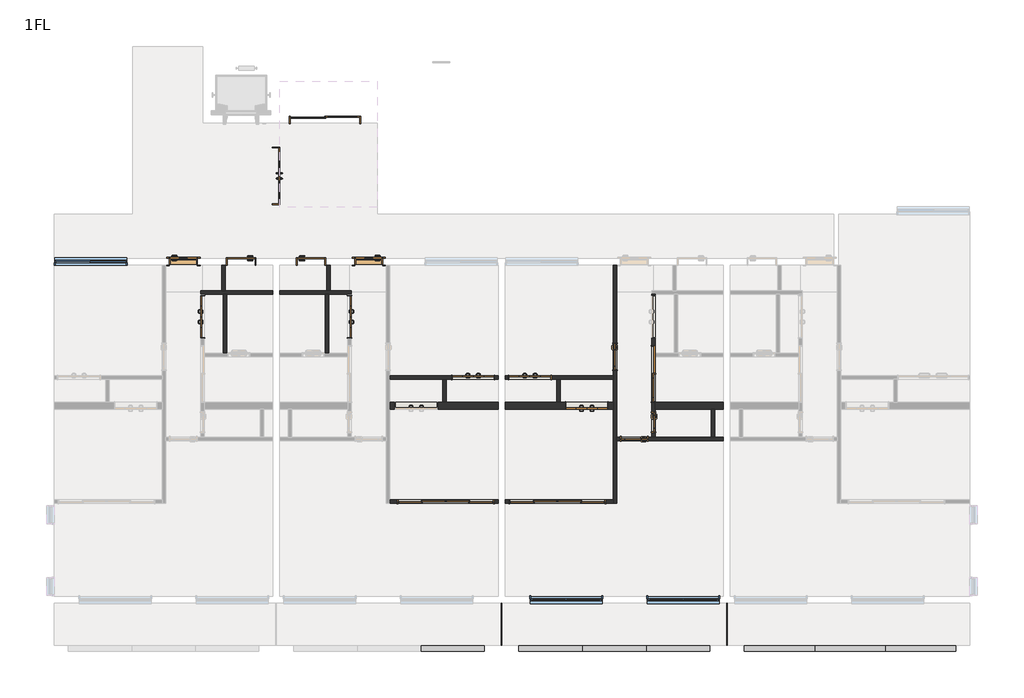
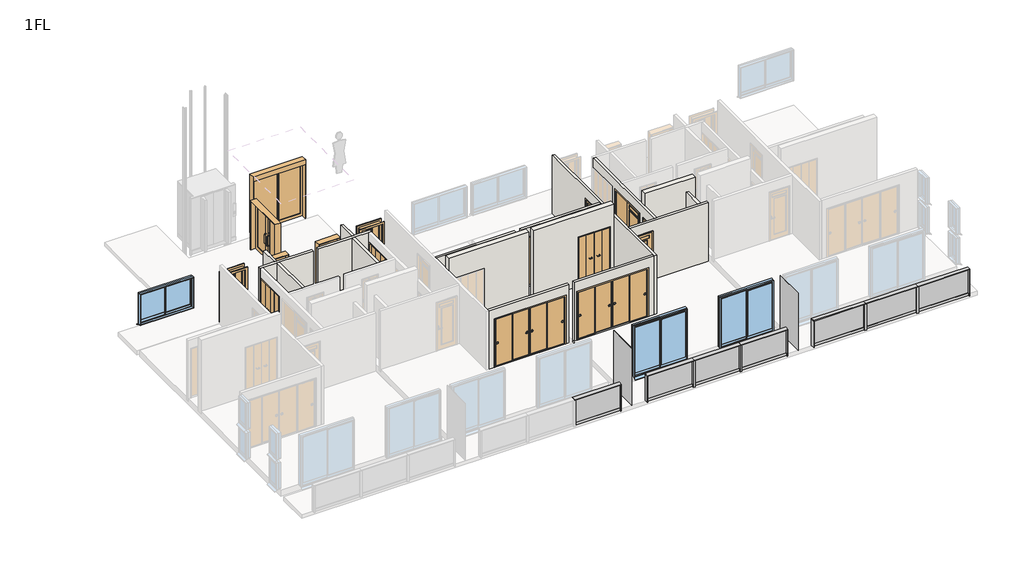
# One storey, part 2 of 3: 19 walls, 17 doors, 16 members, 9 plates, 3 windows.
"""IFC4 building model written with IfcOpenShell, lengths in millimetres."""

from ifc_helpers import new_model, si_unit, frame, origin, place, context, project, spatial, polyline, outline, extrude, faceted_brep, transform, mapped, element, save
from components import door_800x2000_a7d1584b, door_800x2000_010bfebf, w1200h2000_6a144d60, w1200h2000_98cacc9b, w1200h2000_99d19fb3, w1600h2000_4c3c234a, w1600h2000_3fdee943, w2000h2200_4605e8f1, w2800h2000_670b855b, w2800h2000_04aa64cd, w600h2000_7f2747f4, w800h2000_1d97c4d4, w800h2000_13e9f519, w800h2000_ccb03061, w800h2000_0ab7d42c, member_25x150_3f8205e2, member_25x150_f694351b, member_25x150_e95393f9, member_70x150_851c8a9b, plate_9f48129f, plate_365944b3, plate_b830f844, plate_2f85ae4c, plate_cef4847d, window_2000x1200_fc91d1cf, window_2000x2000_f1ff98da

model = new_model("IFC4")

# Units and contexts
model_context = context("Model", 3, world=origin())
ifc_project = project(units=[si_unit("LENGTHUNIT", "METRE", prefix="MILLI")], contexts=[model_context])

# Site, building, storey
site = spatial("IfcSite", under=ifc_project)
building = spatial("IfcBuilding", under=site)
storey = spatial("IfcBuildingStorey", under=building, Name="1FL", Elevation=1000.0)

# Doors
placement = place(None, origin())
door_800x2000_shape = door_800x2000_a7d1584b(model_context)
element("IfcDoor", 1, ObjectType="片開き3 : 800x2000", at=placement, inside=storey, context=model_context, shape_type="MappedRepresentation", body=[
    mapped(door_800x2000_shape, transform((-7378.7187246, -5700.1171638, 1000.0), x_axis=(1.0, 0.0, 0.0), y_axis=(0.0, 1.0, 0.0), z_axis=(0.0, 0.0, 1.0))),
])
door_800x2000_2_shape = door_800x2000_010bfebf(model_context)
element("IfcDoor", 2, ObjectType="片開き3 : 800x2000", at=placement, inside=storey, context=model_context, shape_type="MappedRepresentation", body=[
    mapped(door_800x2000_2_shape, transform((-2078.7187246, -5700.1171638, 1000.0), x_axis=(-1.0, 0.0, 0.0), y_axis=(0.0, -1.0, 0.0), z_axis=(0.0, 0.0, 1.0))),
])
w1200h2000_shape = w1200h2000_6a144d60(model_context)
element("IfcDoor", 3, ObjectType="木製折戸 : w1200h2000", at=placement, inside=storey, context=model_context, shape_type="MappedRepresentation", body=[
    mapped(w1200h2000_shape, transform((-6828.7187246, -7280.1171638, 1100.0), x_axis=(0.0, 1.0, 0.0), y_axis=(-1.0, 0.0, 0.0), z_axis=(0.0, 0.0, 1.0))),
])
element("IfcDoor", 4, ObjectType="木製折戸 : w1200h2000", at=placement, inside=storey, context=model_context, shape_type="MappedRepresentation", body=[
    mapped(w1200h2000_shape, transform((2533.7812754, -9020.1171638, 1100.0), x_axis=(1.0, 0.0, 0.0), y_axis=(0.0, 1.0, 0.0), z_axis=(0.0, 0.0, 1.0))),
])
w1200h2000_2_shape = w1200h2000_98cacc9b(model_context)
element("IfcDoor", 5, ObjectType="木製折戸 : w1200h2000", at=placement, inside=storey, context=model_context, shape_type="MappedRepresentation", body=[
    mapped(w1200h2000_2_shape, transform((4158.7812754, -9820.1171638, 1100.0), x_axis=(-1.0, 0.0, 0.0), y_axis=(0.0, -1.0, 0.0), z_axis=(0.0, 0.0, 1.0))),
])
w1200h2000_3_shape = w1200h2000_99d19fb3(model_context)
element("IfcDoor", 6, ObjectType="木製折戸 : w1200h2000", at=placement, inside=storey, context=model_context, shape_type="MappedRepresentation", body=[
    mapped(w1200h2000_3_shape, transform((908.7812754, -9020.1171638, 1100.0), x_axis=(-1.0, 0.0, 0.0), y_axis=(0.0, -1.0, 0.0), z_axis=(0.0, 0.0, 1.0))),
])
element("IfcDoor", 7, ObjectType="木製折戸 : w1200h2000", at=placement, inside=storey, context=model_context, shape_type="MappedRepresentation", body=[
    mapped(w1200h2000_3_shape, transform((-2628.7187246, -7280.1171638, 1100.0), x_axis=(0.0, 1.0, 0.0), y_axis=(-1.0, 0.0, 0.0), z_axis=(0.0, 0.0, 1.0))),
])
w1600h2000_shape = w1600h2000_4c3c234a(model_context)
element("IfcDoor", 8, ObjectType="片引戸CL2017 : w1600h2000", at=placement, inside=storey, context=model_context, shape_type="MappedRepresentation", body=[
    mapped(w1600h2000_shape, transform((6071.2812754, -8920.1171638, 1100.0), x_axis=(0.0, -1.0, 0.0), y_axis=(1.0, 0.0, 0.0), z_axis=(0.0, 0.0, 1.0))),
])
w1600h2000_2_shape = w1600h2000_3fdee943(model_context)
element("IfcDoor", 9, ObjectType="両開_ガラス四方框 : w1600h2000", at=placement, inside=storey, context=model_context, shape_type="MappedRepresentation", body=[
    mapped(w1600h2000_2_shape, transform((-4728.7187246, -3250.1171638, 1000.0), x_axis=(0.0, -1.0, 0.0), y_axis=(1.0, 0.0, 0.0), z_axis=(0.0, 0.0, 1.0))),
])
w2000h2200_shape = w2000h2200_4605e8f1(model_context)
element("IfcDoor", 10, ObjectType="片引き_自動ドア_ガラス四方框 : w2000h2200", at=placement, inside=storey, context=model_context, shape_type="MappedRepresentation", body=[
    mapped(w2000h2200_shape, transform((-3203.7187246, -1650.1171638, 1000.0), x_axis=(1.0, 0.0, 0.0), y_axis=(0.0, 1.0, 0.0), z_axis=(0.0, 0.0, 1.0))),
])
w2800h2000_shape = w2800h2000_670b855b(model_context)
element("IfcDoor", 11, ObjectType="引違い 4 枚 2 溝_襖 : w2800h2000", at=placement, inside=storey, context=model_context, shape_type="MappedRepresentation", body=[
    mapped(w2800h2000_shape, transform((3315.7457714, -12570.1171638, 1100.0), x_axis=(-1.0, 0.0, 0.0), y_axis=(0.0, -1.0, 0.0), z_axis=(0.0, 0.0, 1.0))),
])
w2800h2000_2_shape = w2800h2000_04aa64cd(model_context)
element("IfcDoor", 12, ObjectType="引違い 4 枚 2 溝_襖 : w2800h2000", at=placement, inside=storey, context=model_context, shape_type="MappedRepresentation", body=[
    mapped(w2800h2000_2_shape, transform((126.8167793, -12570.1171638, 1100.0), x_axis=(1.0, 0.0, 0.0), y_axis=(0.0, 1.0, 0.0), z_axis=(0.0, 0.0, 1.0))),
])
w600h2000_shape = w600h2000_7f2747f4(model_context)
element("IfcDoor", 13, ObjectType="片開戸CL2058 : w600h2000", at=placement, inside=storey, context=model_context, shape_type="MappedRepresentation", body=[
    mapped(w600h2000_shape, transform((6071.2812754, -10295.1171638, 1100.0), x_axis=(0.0, -1.0, 0.0), y_axis=(1.0, 0.0, 0.0), z_axis=(0.0, 0.0, 1.0))),
])
w800h2000_shape = w800h2000_1d97c4d4(model_context)
element("IfcDoor", 14, ObjectType="片開 : w800h2000", at=placement, inside=storey, context=model_context, shape_type="MappedRepresentation", body=[
    mapped(w800h2000_shape, transform((-5728.7187246, -5700.1171638, 1000.0), x_axis=(-1.0, 0.0, 0.0), y_axis=(0.0, -1.0, 0.0), z_axis=(0.0, 0.0, 1.0))),
])
w800h2000_2_shape = w800h2000_13e9f519(model_context)
element("IfcDoor", 15, ObjectType="片開戸CL2058 : w800h2000", at=placement, inside=storey, context=model_context, shape_type="MappedRepresentation", body=[
    mapped(w800h2000_2_shape, transform((4971.2812754, -8420.1171638, 1100.0), x_axis=(0.0, -1.0, 0.0), y_axis=(1.0, 0.0, 0.0), z_axis=(0.0, 0.0, 1.0))),
])
w800h2000_3_shape = w800h2000_ccb03061(model_context)
element("IfcDoor", 16, ObjectType="片開戸CL2058 : w800h2000", at=placement, inside=storey, context=model_context, shape_type="MappedRepresentation", body=[
    mapped(w800h2000_3_shape, transform((5521.2812754, -10770.1171638, 1100.0), x_axis=(-1.0, 0.0, 0.0), y_axis=(0.0, -1.0, 0.0), z_axis=(0.0, 0.0, 1.0))),
])
w800h2000_4_shape = w800h2000_0ab7d42c(model_context)
element("IfcDoor", 17, ObjectType="片開 : w800h2000", at=placement, inside=storey, context=model_context, shape_type="MappedRepresentation", body=[
    mapped(w800h2000_4_shape, transform((-3728.7187246, -5700.1171638, 1000.0), x_axis=(1.0, 0.0, 0.0), y_axis=(0.0, 1.0, 0.0), z_axis=(0.0, 0.0, 1.0))),
])

# Members
member_25x150_shape = member_25x150_3f8205e2(model_context)
element("IfcMember", 18, ObjectType="長方形のマリオン : 25x150", at=placement, inside=storey, context=model_context, shape_type="MappedRepresentation", body=[
    mapped(member_25x150_shape, transform((1221.2812754, -16770.1171638, 1000.0), x_axis=(1.0, 0.0, 0.0), y_axis=(0.0, -1.0, 0.0), z_axis=(0.0, 0.0, -1.0))),
])
element("IfcMember", 19, ObjectType="長方形のマリオン : 25x150", at=placement, inside=storey, context=model_context, shape_type="MappedRepresentation", body=[
    mapped(member_25x150_shape, transform((7671.2812754, -16770.1171638, 1000.0), x_axis=(1.0, 0.0, 0.0), y_axis=(0.0, -1.0, 0.0), z_axis=(0.0, 0.0, -1.0))),
])
element("IfcMember", 20, ObjectType="長方形のマリオン : 25x150", at=placement, inside=storey, context=model_context, shape_type="MappedRepresentation", body=[
    mapped(member_25x150_shape, transform((14721.2812754, -16770.1171638, 1000.0), x_axis=(1.0, 0.0, 0.0), y_axis=(0.0, -1.0, 0.0), z_axis=(0.0, 0.0, -1.0))),
])
element("IfcMember", 21, ObjectType="長方形のマリオン : 25x150", at=placement, inside=storey, context=model_context, shape_type="MappedRepresentation", body=[
    mapped(member_25x150_shape, transform((2221.2812754, -16770.1171638, 2075.0), x_axis=(-1.0, 0.0, 0.0), y_axis=(0.0, -1.0, 0.0), z_axis=(0.0, 0.0, 1.0))),
])
element("IfcMember", 22, ObjectType="長方形のマリオン : 25x150", at=placement, inside=storey, context=model_context, shape_type="MappedRepresentation", body=[
    mapped(member_25x150_shape, transform((8671.2812754, -16770.1171638, 2075.0), x_axis=(-1.0, 0.0, 0.0), y_axis=(0.0, -1.0, 0.0), z_axis=(0.0, 0.0, 1.0))),
])
member_25x150_2_shape = member_25x150_f694351b(model_context)
element("IfcMember", 23, ObjectType="長方形のマリオン : 25x150", at=placement, inside=storey, context=model_context, shape_type="MappedRepresentation", body=[
    mapped(member_25x150_2_shape, transform((1221.2812754, -16770.1171638, 2100.0), x_axis=(0.0, 0.0, 1.0), y_axis=(0.0, -1.0, 0.0), z_axis=(1.0, 0.0, 0.0))),
])
element("IfcMember", 24, ObjectType="長方形のマリオン : 25x150", at=placement, inside=storey, context=model_context, shape_type="MappedRepresentation", body=[
    mapped(member_25x150_2_shape, transform((7671.2812754, -16770.1171638, 2100.0), x_axis=(0.0, 0.0, 1.0), y_axis=(0.0, -1.0, 0.0), z_axis=(1.0, 0.0, 0.0))),
])
element("IfcMember", 25, ObjectType="長方形のマリオン : 25x150", at=placement, inside=storey, context=model_context, shape_type="MappedRepresentation", body=[
    mapped(member_25x150_2_shape, transform((4037.947942, -16770.1171638, 2100.0), x_axis=(0.0, 0.0, 1.0), y_axis=(0.0, -1.0, 0.0), z_axis=(1.0, 0.0, 0.0))),
])
element("IfcMember", 26, ObjectType="長方形のマリオン : 25x150", at=placement, inside=storey, context=model_context, shape_type="MappedRepresentation", body=[
    mapped(member_25x150_2_shape, transform((5854.6146087, -16770.1171638, 2100.0), x_axis=(0.0, 0.0, 1.0), y_axis=(0.0, -1.0, 0.0), z_axis=(1.0, 0.0, 0.0))),
])
member_25x150_3_shape = member_25x150_e95393f9(model_context)
element("IfcMember", 27, ObjectType="長方形のマリオン : 25x150", at=placement, inside=storey, context=model_context, shape_type="MappedRepresentation", body=[
    mapped(member_25x150_3_shape, transform((14721.2812754, -16770.1171638, 2100.0), x_axis=(0.0, 0.0, 1.0), y_axis=(0.0, -1.0, 0.0), z_axis=(1.0, 0.0, 0.0))),
])
element("IfcMember", 28, ObjectType="長方形のマリオン : 25x150", at=placement, inside=storey, context=model_context, shape_type="MappedRepresentation", body=[
    mapped(member_25x150_3_shape, transform((10687.947942, -16770.1171638, 2100.0), x_axis=(0.0, 0.0, 1.0), y_axis=(0.0, -1.0, 0.0), z_axis=(1.0, 0.0, 0.0))),
])
element("IfcMember", 29, ObjectType="長方形のマリオン : 25x150", at=placement, inside=storey, context=model_context, shape_type="MappedRepresentation", body=[
    mapped(member_25x150_3_shape, transform((12704.6146087, -16770.1171638, 2100.0), x_axis=(0.0, 0.0, 1.0), y_axis=(0.0, -1.0, 0.0), z_axis=(1.0, 0.0, 0.0))),
])
member_70x150_shape = member_70x150_851c8a9b(model_context)
element("IfcMember", 30, ObjectType="長方形のマリオン : 70x150", at=placement, inside=storey, context=model_context, shape_type="MappedRepresentation", body=[
    mapped(member_70x150_shape, transform((4037.947942, -16770.1171638, 1000.0), x_axis=(1.0, 0.0, 0.0), y_axis=(0.0, -1.0, 0.0), z_axis=(0.0, 0.0, -1.0))),
])
element("IfcMember", 31, ObjectType="長方形のマリオン : 70x150", at=placement, inside=storey, context=model_context, shape_type="MappedRepresentation", body=[
    mapped(member_70x150_shape, transform((5854.6146087, -16770.1171638, 1000.0), x_axis=(1.0, 0.0, 0.0), y_axis=(0.0, -1.0, 0.0), z_axis=(0.0, 0.0, -1.0))),
])
element("IfcMember", 32, ObjectType="長方形のマリオン : 70x150", at=placement, inside=storey, context=model_context, shape_type="MappedRepresentation", body=[
    mapped(member_70x150_shape, transform((10687.947942, -16770.1171638, 1000.0), x_axis=(1.0, 0.0, 0.0), y_axis=(0.0, -1.0, 0.0), z_axis=(0.0, 0.0, -1.0))),
])
element("IfcMember", 33, ObjectType="長方形のマリオン : 70x150", at=placement, inside=storey, context=model_context, shape_type="MappedRepresentation", body=[
    mapped(member_70x150_shape, transform((12704.6146087, -16770.1171638, 1000.0), x_axis=(1.0, 0.0, 0.0), y_axis=(0.0, -1.0, 0.0), z_axis=(0.0, 0.0, -1.0))),
])

# Plates
plate_shape = plate_9f48129f(model_context)
element("IfcPlate", 34, ObjectType="r パネル FIX 下框付 : 框 H100", at=placement, inside=storey, context=model_context, shape_type="MappedRepresentation", body=[
    mapped(plate_shape, transform((317.947942, -16770.1171638, 1000.0), x_axis=(1.0, 0.0, 0.0), y_axis=(0.0, 1.0, 0.0), z_axis=(0.0, 0.0, 1.0))),
])
element("IfcPlate", 35, ObjectType="r パネル FIX 下框付 : 框 H100", at=placement, inside=storey, context=model_context, shape_type="MappedRepresentation", body=[
    mapped(plate_shape, transform((3124.6146087, -16770.1171638, 1000.0), x_axis=(1.0, 0.0, 0.0), y_axis=(0.0, 1.0, 0.0), z_axis=(0.0, 0.0, 1.0))),
])
element("IfcPlate", 36, ObjectType="r パネル FIX 下框付 : 框 H100", at=placement, inside=storey, context=model_context, shape_type="MappedRepresentation", body=[
    mapped(plate_shape, transform((6767.947942, -16770.1171638, 1000.0), x_axis=(1.0, 0.0, 0.0), y_axis=(0.0, 1.0, 0.0), z_axis=(0.0, 0.0, 1.0))),
])
plate_2_shape = plate_365944b3(model_context)
element("IfcPlate", 37, ObjectType="r パネル FIX 下框付 : 框 H100", at=placement, inside=storey, context=model_context, shape_type="MappedRepresentation", body=[
    mapped(plate_2_shape, transform((4946.2812754, -16770.1171638, 1000.0), x_axis=(1.0, 0.0, 0.0), y_axis=(0.0, 1.0, 0.0), z_axis=(0.0, 0.0, 1.0))),
])
plate_3_shape = plate_b830f844(model_context)
element("IfcPlate", 38, ObjectType="r パネル FIX 下框付 : 框 H100", at=placement, inside=storey, context=model_context, shape_type="MappedRepresentation", body=[
    mapped(plate_3_shape, transform((9674.6146087, -16770.1171638, 1000.0), x_axis=(1.0, 0.0, 0.0), y_axis=(0.0, 1.0, 0.0), z_axis=(0.0, 0.0, 1.0))),
])
element("IfcPlate", 39, ObjectType="r パネル FIX 下框付 : 框 H100", at=placement, inside=storey, context=model_context, shape_type="MappedRepresentation", body=[
    mapped(plate_3_shape, transform((13717.947942, -16770.1171638, 1000.0), x_axis=(1.0, 0.0, 0.0), y_axis=(0.0, 1.0, 0.0), z_axis=(0.0, 0.0, 1.0))),
])
plate_4_shape = plate_2f85ae4c(model_context)
element("IfcPlate", 40, ObjectType="r パネル FIX 下框付 : 框 H100", at=placement, inside=storey, context=model_context, shape_type="MappedRepresentation", body=[
    mapped(plate_4_shape, transform((11696.2812754, -16770.1171638, 1000.0), x_axis=(1.0, 0.0, 0.0), y_axis=(0.0, 1.0, 0.0), z_axis=(0.0, 0.0, 1.0))),
])
plate_5_shape = plate_cef4847d(model_context)
element("IfcPlate", 41, ObjectType="システム パネル : 標準", at=placement, inside=storey, context=model_context, shape_type="MappedRepresentation", body=[
    mapped(plate_5_shape, transform((1721.2812754, -16070.1171638, 950.0), x_axis=(0.0, -1.0, 0.0), y_axis=(1.0, 0.0, 0.0), z_axis=(0.0, 0.0, 1.0))),
])
element("IfcPlate", 42, ObjectType="システム パネル : 標準", at=placement, inside=storey, context=model_context, shape_type="MappedRepresentation", body=[
    mapped(plate_5_shape, transform((8171.2812754, -16070.1171638, 950.0), x_axis=(0.0, -1.0, 0.0), y_axis=(1.0, 0.0, 0.0), z_axis=(0.0, 0.0, 1.0))),
])

# Walls
element("IfcWall", 43, ObjectType="(R)RC200", at=placement, inside=storey, context=model_context, shape_type="Brep", body=[
    faceted_brep([(1621.2812754, -9720.1171638, 1000.0), (146.2812754, -9720.1171638, 1000.0), (46.2812754, -9720.1171638, 1000.0), (-1478.7187246, -9720.1171638, 1000.0), (-1478.7187246, -9720.1171638, 4000.0), (1621.2812754, -9720.1171638, 4000.0), (-96.2187246, -9720.1171638, 3120.0), (-1336.2187246, -9720.1171638, 3120.0), (-1336.2187246, -9720.1171638, 1100.0), (-96.2187246, -9720.1171638, 1100.0), (1621.2812754, -9920.1171638, 1000.0), (1621.2812754, -9920.1171638, 4000.0), (-1478.7187246, -9920.1171638, 4000.0), (-1478.7187246, -9920.1171638, 1000.0), (-96.2187246, -9920.1171638, 3120.0), (-96.2187246, -9920.1171638, 1100.0), (-1336.2187246, -9920.1171638, 1100.0), (-1336.2187246, -9920.1171638, 3120.0)], [[[0, 1, 2, 3, 4, 5], [6, 7, 8, 9]], [[10, 11, 12, 13], [14, 15, 16, 17]], [[3, 2, 1, 0, 10, 13]], [[5, 4, 12, 11]], [[4, 3, 13, 12]], [[15, 14, 6, 9]], [[16, 15, 9, 8]], [[17, 16, 8, 7]], [[14, 17, 7, 6]], [[0, 5, 11, 10]]]),
])
element("IfcWall", 44, ObjectType="(R)RC200", at=placement, inside=storey, context=model_context, shape_type="Brep", body=[
    faceted_brep([(1821.2812754, -9920.1171638, 1000.0), (4921.2812754, -9920.1171638, 1000.0), (4921.2812754, -9920.1171638, 4000.0), (1821.2812754, -9920.1171638, 4000.0), (3538.7812754, -9920.1171638, 3120.0), (4778.7812754, -9920.1171638, 3120.0), (4778.7812754, -9920.1171638, 1100.0), (3538.7812754, -9920.1171638, 1100.0), (1821.2812754, -9720.1171638, 1000.0), (1821.2812754, -9720.1171638, 4000.0), (4921.2812754, -9720.1171638, 4000.0), (4921.2812754, -9720.1171638, 1000.0), (3396.2812754, -9720.1171638, 1000.0), (3296.2812754, -9720.1171638, 1000.0), (3538.7812754, -9720.1171638, 3120.0), (3538.7812754, -9720.1171638, 1100.0), (4778.7812754, -9720.1171638, 1100.0), (4778.7812754, -9720.1171638, 3120.0)], [[[0, 1, 2, 3], [4, 5, 6, 7]], [[8, 9, 10, 11, 12, 13], [14, 15, 16, 17]], [[1, 0, 8, 13, 12, 11]], [[3, 2, 10, 9]], [[2, 1, 11, 10]], [[15, 14, 4, 7]], [[16, 15, 7, 6]], [[17, 16, 6, 5]], [[14, 17, 5, 4]], [[0, 3, 9, 8]]]),
])
element("IfcWall", 45, ObjectType="(R)RC200", at=placement, inside=storey, context=model_context, shape_type="Brep", body=[
    faceted_brep([(6121.2812754, -9920.1171638, 1000.0), (7721.2812754, -9920.1171638, 1000.0), (7821.2812754, -9920.1171638, 1000.0), (8071.2812754, -9920.1171638, 1000.0), (8071.2812754, -9920.1171638, 4000.0), (6121.2812754, -9920.1171638, 4000.0), (6121.2812754, -9720.1171638, 1000.0), (6121.2812754, -9720.1171638, 4000.0), (8071.2812754, -9720.1171638, 4000.0), (8071.2812754, -9720.1171638, 1000.0)], [[[0, 1, 2, 3, 4, 5]], [[6, 7, 8, 9]], [[3, 2, 1, 0, 6, 9]], [[5, 4, 8, 7]], [[0, 5, 7, 6]], [[4, 3, 9, 8]]]),
])
element("IfcWall", 46, ObjectType="(L1)LGS100", at=placement, inside=storey, context=model_context, shape_type="Brep", body=[
    faceted_brep([(-6878.7187246, -6630.1171638, 1000.0), (-6778.7187246, -6630.1171638, 1000.0), (-6238.7187246, -6630.1171638, 1000.0), (-6138.7187246, -6630.1171638, 1000.0), (-4828.7187246, -6630.1171638, 1000.0), (-4828.7187246, -6630.1171638, 3500.0), (-6138.7187246, -6630.1171638, 3500.0), (-6238.7187246, -6630.1171638, 3500.0), (-6778.7187246, -6630.1171638, 3500.0), (-6878.7187246, -6630.1171638, 3500.0), (-6878.7187246, -6530.1171638, 1000.0), (-6878.7187246, -6530.1171638, 3500.0), (-6278.7187246, -6530.1171638, 3500.0), (-6178.7187246, -6530.1171638, 3500.0), (-4828.7187246, -6530.1171638, 3500.0), (-4828.7187246, -6530.1171638, 1000.0), (-6178.7187246, -6530.1171638, 1000.0), (-6278.7187246, -6530.1171638, 1000.0)], [[[0, 1, 2, 3, 4, 5, 6, 7, 8, 9]], [[10, 11, 12, 13, 14, 15, 16, 17]], [[4, 3, 2, 1, 0, 10, 17, 16, 15]], [[9, 8, 7, 6, 5, 14, 13, 12, 11]], [[5, 4, 15, 14]], [[0, 9, 11, 10]]]),
])
element("IfcWall", 47, ObjectType="(L1)LGS100", at=placement, inside=storey, context=model_context, shape_type="SweptSolid", body=[
    extrude(outline(polyline([(-6178.7187246, -5800.1171638), (-6178.7187246, -6530.1171638), (-6278.7187246, -6530.1171638), (-6278.7187246, -5800.1171638), (-6178.7187246, -5800.1171638)])), frame((0.0, 0.0, 1000.0), z_axis=(0.0, 0.0, 1.0), x_axis=(1.0, 0.0, 0.0)), (0.0, 0.0, 1.0), 2500.0),
])
element("IfcWall", 48, ObjectType="(L1)LGS100", at=placement, inside=storey, context=model_context, shape_type="SweptSolid", body=[
    extrude(outline(polyline([(-6138.7187246, -6630.1171638), (-6138.7187246, -8320.1171638), (-6238.7187246, -8320.1171638), (-6238.7187246, -6630.1171638), (-6138.7187246, -6630.1171638)])), frame((0.0, 0.0, 1000.0), z_axis=(0.0, 0.0, 1.0), x_axis=(1.0, 0.0, 0.0)), (0.0, 0.0, 1.0), 2500.0),
])
element("IfcWall", 49, ObjectType="(L1)LGS100", at=placement, inside=storey, context=model_context, shape_type="Brep", body=[
    faceted_brep([(1621.2812754, -8970.1171638, 1000.0), (-1478.7187246, -8970.1171638, 1000.0), (-1478.7187246, -8970.1171638, 3500.0), (1621.2812754, -8970.1171638, 3500.0), (288.7812754, -8970.1171638, 3120.0), (288.7812754, -8970.1171638, 1100.0), (1528.7812754, -8970.1171638, 1100.0), (1528.7812754, -8970.1171638, 3120.0), (-1478.7187246, -9070.1171638, 1000.0), (46.2812754, -9070.1171638, 1000.0), (146.2812754, -9070.1171638, 1000.0), (1621.2812754, -9070.1171638, 1000.0), (1621.2812754, -9070.1171638, 3500.0), (146.2812754, -9070.1171638, 3500.0), (46.2812754, -9070.1171638, 3500.0), (-1478.7187246, -9070.1171638, 3500.0), (288.7812754, -9070.1171638, 1100.0), (288.7812754, -9070.1171638, 3120.0), (1528.7812754, -9070.1171638, 3120.0), (1528.7812754, -9070.1171638, 1100.0)], [[[0, 1, 2, 3], [4, 5, 6, 7]], [[8, 9, 10, 11, 12, 13, 14, 15], [16, 17, 18, 19]], [[1, 0, 11, 10, 9, 8]], [[3, 2, 15, 14, 13, 12]], [[2, 1, 8, 15]], [[4, 17, 16, 5]], [[5, 16, 19, 6]], [[17, 4, 7, 18]], [[18, 7, 6, 19]], [[0, 3, 12, 11]]]),
])
element("IfcWall", 50, ObjectType="(L1)LGS100", at=placement, inside=storey, context=model_context, shape_type="SweptSolid", body=[
    extrude(outline(polyline([(146.2812754, -9070.1171638), (146.2812754, -9720.1171638), (46.2812754, -9720.1171638), (46.2812754, -9070.1171638), (146.2812754, -9070.1171638)])), frame((0.0, 0.0, 1000.0), z_axis=(0.0, 0.0, 1.0), x_axis=(1.0, 0.0, 0.0)), (0.0, 0.0, 1.0), 2500.0),
])
element("IfcWall", 51, ObjectType="(L1)LGS100", at=placement, inside=storey, context=model_context, shape_type="Brep", body=[
    faceted_brep([(-2578.7187246, -6530.1171638, 1000.0), (-3178.7187246, -6530.1171638, 1000.0), (-3278.7187246, -6530.1171638, 1000.0), (-4628.7187246, -6530.1171638, 1000.0), (-4628.7187246, -6530.1171638, 3500.0), (-3278.7187246, -6530.1171638, 3500.0), (-3178.7187246, -6530.1171638, 3500.0), (-2578.7187246, -6530.1171638, 3500.0), (-2578.7187246, -6630.1171638, 1000.0), (-2578.7187246, -6630.1171638, 3500.0), (-2678.7187246, -6630.1171638, 3500.0), (-3218.7187246, -6630.1171638, 3500.0), (-3318.7187246, -6630.1171638, 3500.0), (-4628.7187246, -6630.1171638, 3500.0), (-4628.7187246, -6630.1171638, 1000.0), (-3318.7187246, -6630.1171638, 1000.0), (-3218.7187246, -6630.1171638, 1000.0), (-2678.7187246, -6630.1171638, 1000.0)], [[[0, 1, 2, 3, 4, 5, 6, 7]], [[8, 9, 10, 11, 12, 13, 14, 15, 16, 17]], [[3, 2, 1, 0, 8, 17, 16, 15, 14]], [[7, 6, 5, 4, 13, 12, 11, 10, 9]], [[0, 7, 9, 8]], [[4, 3, 14, 13]]]),
])
element("IfcWall", 52, ObjectType="(L1)LGS100", at=placement, inside=storey, context=model_context, shape_type="SweptSolid", body=[
    extrude(outline(polyline([(-3178.7187246, -5800.1171638), (-3178.7187246, -6530.1171638), (-3278.7187246, -6530.1171638), (-3278.7187246, -5800.1171638), (-3178.7187246, -5800.1171638)])), frame((0.0, 0.0, 1000.0), z_axis=(0.0, 0.0, 1.0), x_axis=(1.0, 0.0, 0.0)), (0.0, 0.0, 1.0), 2500.0),
])
element("IfcWall", 53, ObjectType="(L1)LGS100", at=placement, inside=storey, context=model_context, shape_type="SweptSolid", body=[
    extrude(outline(polyline([(-3218.7187246, -6630.1171638), (-3218.7187246, -8320.1171638), (-3318.7187246, -8320.1171638), (-3318.7187246, -6630.1171638), (-3218.7187246, -6630.1171638)])), frame((0.0, 0.0, 1000.0), z_axis=(0.0, 0.0, 1.0), x_axis=(1.0, 0.0, 0.0)), (0.0, 0.0, 1.0), 2500.0),
])
element("IfcWall", 54, ObjectType="(L1)LGS100", at=placement, inside=storey, context=model_context, shape_type="SweptSolid", body=[
    extrude(outline(polyline([(1000.0, 1621.2812754), (3500.0, 1621.2812754), (3500.0, -1478.7187246), (1000.0, -1478.7187246), (1000.0, 1621.2812754)]), holes=[polyline([(3100.0, 1521.2812754), (1100.0, 1521.2812754), (1100.0, -1278.7187246), (3100.0, -1278.7187246), (3100.0, 1521.2812754)])]), frame((0.0, -12620.1171638, 0.0), z_axis=(0.0, 1.0, 0.0), x_axis=(0.0, 0.0, 1.0)), (0.0, 0.0, 1.0), 100.0),
])
element("IfcWall", 55, ObjectType="(L1)LGS100", at=placement, inside=storey, context=model_context, shape_type="Brep", body=[
    faceted_brep([(1821.2812754, -9070.1171638, 1000.0), (3296.2812754, -9070.1171638, 1000.0), (3396.2812754, -9070.1171638, 1000.0), (4921.2812754, -9070.1171638, 1000.0), (4921.2812754, -9070.1171638, 3500.0), (3396.2812754, -9070.1171638, 3500.0), (3296.2812754, -9070.1171638, 3500.0), (1821.2812754, -9070.1171638, 3500.0), (3153.7812754, -9070.1171638, 3120.0), (3153.7812754, -9070.1171638, 1100.0), (1913.7812754, -9070.1171638, 1100.0), (1913.7812754, -9070.1171638, 3120.0), (4921.2812754, -8970.1171638, 1000.0), (1821.2812754, -8970.1171638, 1000.0), (1821.2812754, -8970.1171638, 3500.0), (4921.2812754, -8970.1171638, 3500.0), (3153.7812754, -8970.1171638, 1100.0), (3153.7812754, -8970.1171638, 3120.0), (1913.7812754, -8970.1171638, 3120.0), (1913.7812754, -8970.1171638, 1100.0)], [[[0, 1, 2, 3, 4, 5, 6, 7], [8, 9, 10, 11]], [[12, 13, 14, 15], [16, 17, 18, 19]], [[3, 2, 1, 0, 13, 12]], [[7, 6, 5, 4, 15, 14]], [[4, 3, 12, 15]], [[8, 17, 16, 9]], [[9, 16, 19, 10]], [[17, 8, 11, 18]], [[18, 11, 10, 19]], [[0, 7, 14, 13]]]),
])
element("IfcWall", 56, ObjectType="(L1)LGS100", at=placement, inside=storey, context=model_context, shape_type="SweptSolid", body=[
    extrude(outline(polyline([(3396.2812754, -9070.1171638), (3396.2812754, -9720.1171638), (3296.2812754, -9720.1171638), (3296.2812754, -9070.1171638), (3396.2812754, -9070.1171638)])), frame((0.0, 0.0, 1000.0), z_axis=(0.0, 0.0, 1.0), x_axis=(1.0, 0.0, 0.0)), (0.0, 0.0, 1.0), 2500.0),
])
element("IfcWall", 57, ObjectType="(L1)LGS100", at=placement, inside=storey, context=model_context, shape_type="Brep", body=[
    faceted_brep([(5021.2812754, -12620.1171638, 1000.0), (5021.2812754, -10820.1171638, 1000.0), (5021.2812754, -10720.1171638, 1000.0), (5021.2812754, -5800.1171638, 1000.0), (5021.2812754, -5800.1171638, 3500.0), (5021.2812754, -10720.1171638, 3500.0), (5021.2812754, -10820.1171638, 3500.0), (5021.2812754, -12620.1171638, 3500.0), (5021.2812754, -8820.1171638, 1100.0), (5021.2812754, -8820.1171638, 3100.0), (5021.2812754, -8020.1171638, 3100.0), (5021.2812754, -8020.1171638, 1100.0), (4921.2812754, -12620.1171638, 1000.0), (4921.2812754, -12620.1171638, 3500.0), (4921.2812754, -12520.1171638, 3500.0), (4921.2812754, -9070.1171638, 3500.0), (4921.2812754, -8970.1171638, 3500.0), (4921.2812754, -5800.1171638, 3500.0), (4921.2812754, -5800.1171638, 1000.0), (4921.2812754, -8970.1171638, 1000.0), (4921.2812754, -9070.1171638, 1000.0), (4921.2812754, -9720.1171638, 1000.0), (4921.2812754, -9920.1171638, 1000.0), (4921.2812754, -12520.1171638, 1000.0), (4921.2812754, -8820.1171638, 1100.0), (4921.2812754, -8020.1171638, 1100.0), (4921.2812754, -8020.1171638, 3100.0), (4921.2812754, -8820.1171638, 3100.0)], [[[0, 1, 2, 3, 4, 5, 6, 7], [8, 9, 10, 11]], [[12, 13, 14, 15, 16, 17, 18, 19, 20, 21, 22, 23], [24, 25, 26, 27]], [[3, 2, 1, 0, 12, 23, 22, 21, 20, 19, 18]], [[7, 6, 5, 4, 17, 16, 15, 14, 13]], [[0, 7, 13, 12]], [[9, 8, 24, 27]], [[10, 9, 27, 26]], [[11, 10, 26, 25]], [[8, 11, 25, 24]], [[4, 3, 18, 17]]]),
])
element("IfcWall", 58, ObjectType="(L1)LGS100", at=placement, inside=storey, context=model_context, shape_type="Brep", body=[
    faceted_brep([(6121.2812754, -10720.1171638, 1000.0), (6121.2812754, -9920.1171638, 1000.0), (6121.2812754, -9720.1171638, 1000.0), (6121.2812754, -8420.1171638, 1000.0), (6121.2812754, -8320.1171638, 1000.0), (6121.2812754, -6630.1171638, 1000.0), (6121.2812754, -6630.1171638, 3500.0), (6121.2812754, -8320.1171638, 3500.0), (6121.2812754, -8420.1171638, 3500.0), (6121.2812754, -10720.1171638, 3500.0), (6121.2812754, -10595.1171638, 1100.0), (6121.2812754, -10595.1171638, 3100.0), (6121.2812754, -9995.1171638, 3100.0), (6121.2812754, -9995.1171638, 1100.0), (6121.2812754, -6660.1171638, 1100.0), (6121.2812754, -7900.1171638, 1100.0), (6121.2812754, -7900.1171638, 3120.0), (6121.2812754, -6660.1171638, 3120.0), (6121.2812754, -9745.1171638, 1100.0), (6121.2812754, -9745.1171638, 3140.0), (6121.2812754, -8095.1171638, 3140.0), (6121.2812754, -8095.1171638, 1100.0), (6021.2812754, -6630.1171638, 1000.0), (6021.2812754, -10720.1171638, 1000.0), (6021.2812754, -10720.1171638, 3500.0), (6021.2812754, -6630.1171638, 3500.0), (6021.2812754, -10595.1171638, 1100.0), (6021.2812754, -9995.1171638, 1100.0), (6021.2812754, -9995.1171638, 3100.0), (6021.2812754, -10595.1171638, 3100.0), (6021.2812754, -7900.1171638, 1100.0), (6021.2812754, -6660.1171638, 1100.0), (6021.2812754, -6660.1171638, 3120.0), (6021.2812754, -7900.1171638, 3120.0), (6021.2812754, -9745.1171638, 1100.0), (6021.2812754, -8095.1171638, 1100.0), (6021.2812754, -8095.1171638, 3140.0), (6021.2812754, -9745.1171638, 3140.0)], [[[0, 1, 2, 3, 4, 5, 6, 7, 8, 9], [10, 11, 12, 13], [14, 15, 16, 17], [18, 19, 20, 21]], [[22, 23, 24, 25], [26, 27, 28, 29], [30, 31, 32, 33], [34, 35, 36, 37]], [[5, 4, 3, 2, 1, 0, 23, 22]], [[9, 8, 7, 6, 25, 24]], [[0, 9, 24, 23]], [[11, 10, 26, 29]], [[12, 11, 29, 28]], [[13, 12, 28, 27]], [[10, 13, 27, 26]], [[14, 31, 30, 15]], [[15, 30, 33, 16]], [[16, 33, 32, 17]], [[19, 18, 34, 37]], [[20, 19, 37, 36]], [[21, 20, 36, 35]], [[18, 21, 35, 34]], [[31, 14, 17, 32]], [[6, 5, 22, 25]]]),
])
element("IfcWall", 59, ObjectType="(L1)LGS100", at=placement, inside=storey, context=model_context, shape_type="SweptSolid", body=[
    extrude(outline(polyline([(7821.2812754, -9920.1171638), (7821.2812754, -10720.1171638), (7721.2812754, -10720.1171638), (7721.2812754, -9920.1171638), (7821.2812754, -9920.1171638)])), frame((0.0, 0.0, 1000.0), z_axis=(0.0, 0.0, 1.0), x_axis=(1.0, 0.0, 0.0)), (0.0, 0.0, 1.0), 2500.0),
])
element("IfcWall", 60, ObjectType="(L1)LGS100", at=placement, inside=storey, context=model_context, shape_type="Brep", body=[
    faceted_brep([(5021.2812754, -10820.1171638, 1000.0), (8071.2812754, -10820.1171638, 1000.0), (8071.2812754, -10820.1171638, 3500.0), (5021.2812754, -10820.1171638, 3500.0), (5121.2812754, -10820.1171638, 1100.0), (5121.2812754, -10820.1171638, 3100.0), (5921.2812754, -10820.1171638, 3100.0), (5921.2812754, -10820.1171638, 1100.0), (8071.2812754, -10720.1171638, 1000.0), (7821.2812754, -10720.1171638, 1000.0), (7721.2812754, -10720.1171638, 1000.0), (6121.2812754, -10720.1171638, 1000.0), (6021.2812754, -10720.1171638, 1000.0), (5021.2812754, -10720.1171638, 1000.0), (5021.2812754, -10720.1171638, 3500.0), (6021.2812754, -10720.1171638, 3500.0), (6121.2812754, -10720.1171638, 3500.0), (7721.2812754, -10720.1171638, 3500.0), (7821.2812754, -10720.1171638, 3500.0), (8071.2812754, -10720.1171638, 3500.0), (5121.2812754, -10720.1171638, 3100.0), (5121.2812754, -10720.1171638, 1100.0), (5921.2812754, -10720.1171638, 1100.0), (5921.2812754, -10720.1171638, 3100.0)], [[[0, 1, 2, 3], [4, 5, 6, 7]], [[8, 9, 10, 11, 12, 13, 14, 15, 16, 17, 18, 19], [20, 21, 22, 23]], [[1, 0, 13, 12, 11, 10, 9, 8]], [[3, 2, 19, 18, 17, 16, 15, 14]], [[0, 3, 14, 13]], [[4, 21, 20, 5]], [[5, 20, 23, 6]], [[6, 23, 22, 7]], [[21, 4, 7, 22]], [[2, 1, 8, 19]]]),
])
element("IfcWall", 61, ObjectType="(L1)LGS100", at=placement, inside=storey, context=model_context, shape_type="SweptSolid", body=[
    extrude(outline(polyline([(1000.0, 1821.2812754), (1000.0, 4921.2812754), (3500.0, 4921.2812754), (3500.0, 1821.2812754), (1000.0, 1821.2812754)]), holes=[polyline([(3100.0, 1921.2812754), (3100.0, 4721.2812754), (1100.0, 4721.2812754), (1100.0, 1921.2812754), (3100.0, 1921.2812754)])]), frame((0.0, -12620.1171638, 0.0), z_axis=(0.0, 1.0, 0.0), x_axis=(0.0, 0.0, 1.0)), (0.0, 0.0, 1.0), 100.0),
])

# Windows
window_2000x1200_shape = window_2000x1200_fc91d1cf(model_context)
element("IfcWindow", 62, ObjectType="鋼製_一般枠_引違い-二枚 : 2000x1200", at=placement, inside=storey, context=model_context, shape_type="MappedRepresentation", body=[
    mapped(window_2000x1200_shape, transform((-10028.7187246, -5700.1171638, 1250.0), x_axis=(1.0, 0.0, 0.0), y_axis=(0.0, 1.0, 0.0), z_axis=(0.0, 0.0, 1.0))),
])
window_2000x2000_shape = window_2000x2000_f1ff98da(model_context)
element("IfcWindow", 63, ObjectType="鋼製_一般枠_引違い-二枚 : 2000x2000", at=placement, inside=storey, context=model_context, shape_type="MappedRepresentation", body=[
    mapped(window_2000x2000_shape, transform((3571.2812754, -15370.1171638, 200.0), x_axis=(-1.0, 0.0, 0.0), y_axis=(0.0, -1.0, 0.0), z_axis=(0.0, 0.0, 1.0))),
])
element("IfcWindow", 64, ObjectType="鋼製_一般枠_引違い-二枚 : 2000x2000", at=placement, inside=storey, context=model_context, shape_type="MappedRepresentation", body=[
    mapped(window_2000x2000_shape, transform((6921.2812754, -15370.1171638, 200.0), x_axis=(-1.0, 0.0, 0.0), y_axis=(0.0, -1.0, 0.0), z_axis=(0.0, 0.0, 1.0))),
])

save(model, "model.ifc")
